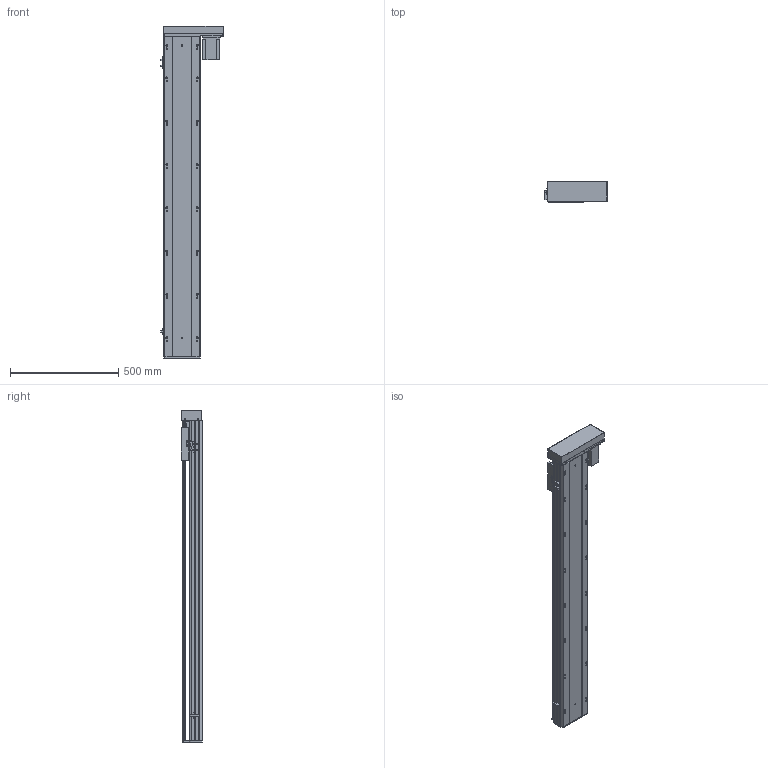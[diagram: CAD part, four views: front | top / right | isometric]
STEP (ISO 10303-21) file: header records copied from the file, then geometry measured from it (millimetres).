
FILE_DESCRIPTION (( 'STEP AP203' ), '1' );
FILE_NAME ('Y170-D10-S1250-BR-P750W.STEP', '2020-01-21T12:42:05', ( '微软用户' ), ( '微软中国' ), 'SwSTEP 2.0', 'SolidWorks 2017', '' );
FILE_SCHEMA (( 'CONFIG_CONTROL_DESIGN' ));
Length unit declared in the file: millimetre
Products named in the file (12): Y-BL.BR-俋欶; Y--BL蟀諉啣-陔遴-; YD-Y100-135-新外置传感挡片(通用）; Y100-135俋离換覜ん; Y170耜裔--準---; Y170-D10-S1250-BR-P750W; 170--掛极-BR; Y170-BL-P750W楊擘啣; Y雄赽釱-耜蚾; 侂狟750W; Y170-陔遴奻裔-BR; EGH20賑輸_蕼偞
Assembly tree (14 placements, depth 2):
  Y170-D10-S1250-BR-P750W
    Y170耜裔--準---
    170--掛极-BR
    Y170-BL-P750W楊擘啣
    侂狟750W
    EGH20賑輸_蕼偞  x2
    Y雄赽釱-耜蚾
    Y170-陔遴奻裔-BR
    Y-BL.BR-俋欶
    Y--BL蟀諉啣-陔遴-
    YD-Y100-135-新外置传感挡片(通用）
    Y100-135俋离換覜ん  x3
Bounding box: 289 x 97 x 1533.5 mm (x, y, z)
Volume: 7013471.9 mm3; surface area: 2456838.9 mm2
Topology: 14 solids, 14 shells, 945 faces, 2690 edges, 1776 vertices
Faces by surface type: cylinder 486, plane 443, cone 16
Entity records: 30250 total; most frequent: CARTESIAN_POINT 5454, DIRECTION 4988, ORIENTED_EDGE 4876, EDGE_CURVE 2438, AXIS2_PLACEMENT_3D 1778, VERTEX_POINT 1620, LINE 1432, VECTOR 1432
